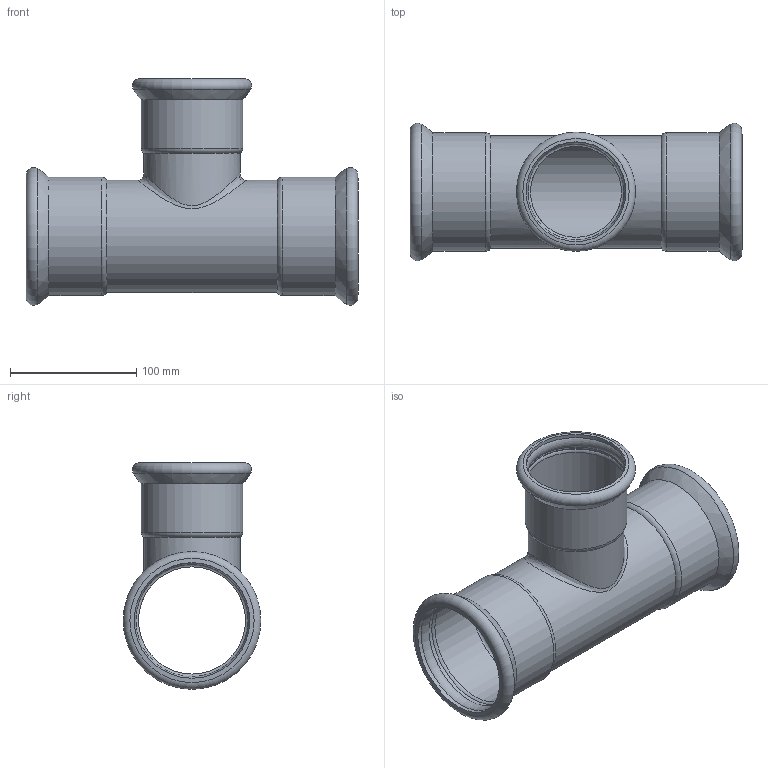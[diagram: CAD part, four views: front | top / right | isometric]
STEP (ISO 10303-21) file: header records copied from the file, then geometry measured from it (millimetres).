
FILE_DESCRIPTION(/* description */ ('TEE RIDOTTO 88,9-76,1-88,9'),/* implementation_level */ '2;1');
FILE_NAME(/* name */ 'R:\Disegni3D_Area_Manager\Steelpres.step\392_STEELPRES\392088076_Steelpres.stp',/* time_stamp */ '2022-10-21T14:55:16+02:00',/* author */ ('Vault'),/* organization */ ('Raccorderie metalliche s.p.a. '),/* preprocessor_version */ 'ST-DEVELOPER v18.1',/* originating_system */ 'Autodesk Inventor 2020',/* authorisation */ 'Raccorderie metalliche s.p.a. ');
FILE_SCHEMA (('AUTOMOTIVE_DESIGN { 1 0 10303 214 3 1 1 }'));
Length unit declared in the file: millimetre
Products named in the file (1): 392088076_Steelpres
Bounding box: 263 x 109.1 x 179.5 mm (x, y, z)
Volume: 256598.6 mm3; surface area: 192562.2 mm2
Topology: 1 solids, 1 shells, 40 faces, 146 edges, 106 vertices
Faces by surface type: cylinder 16, torus 15, bspline 5, cone 4
Full cylindrical faces by diameter (mm): 72.1 x1, 76.1 x1, 76.7 x1, 79 x2, 80.7 x1, 84.9 x1, 88.9 x1, 89.6 x2, 91.5 x4, 93.6 x2
Entity records: 2457 total; most frequent: CARTESIAN_POINT 1039, DIRECTION 334, ORIENTED_EDGE 296, AXIS2_PLACEMENT_3D 156, EDGE_CURVE 148, CIRCLE 120, VERTEX_POINT 108, EDGE_LOOP 42
